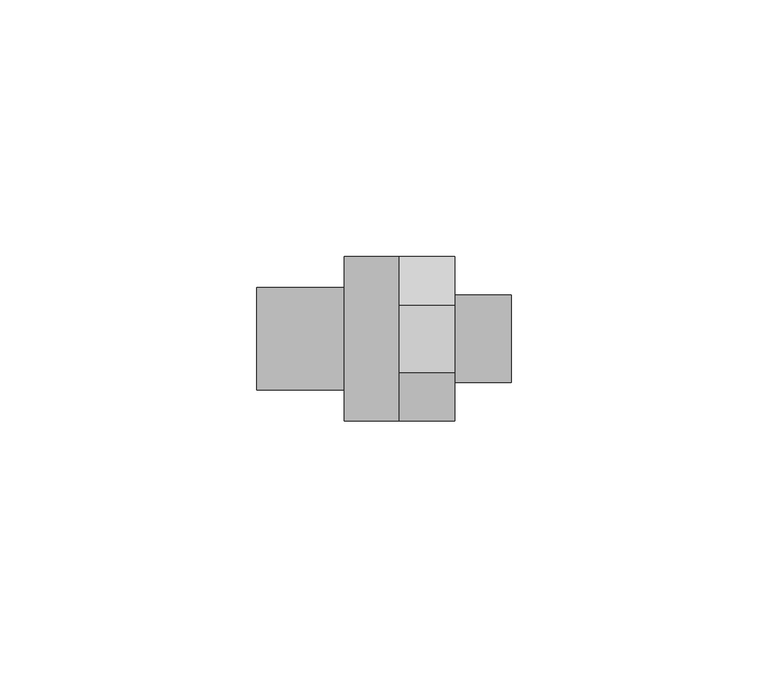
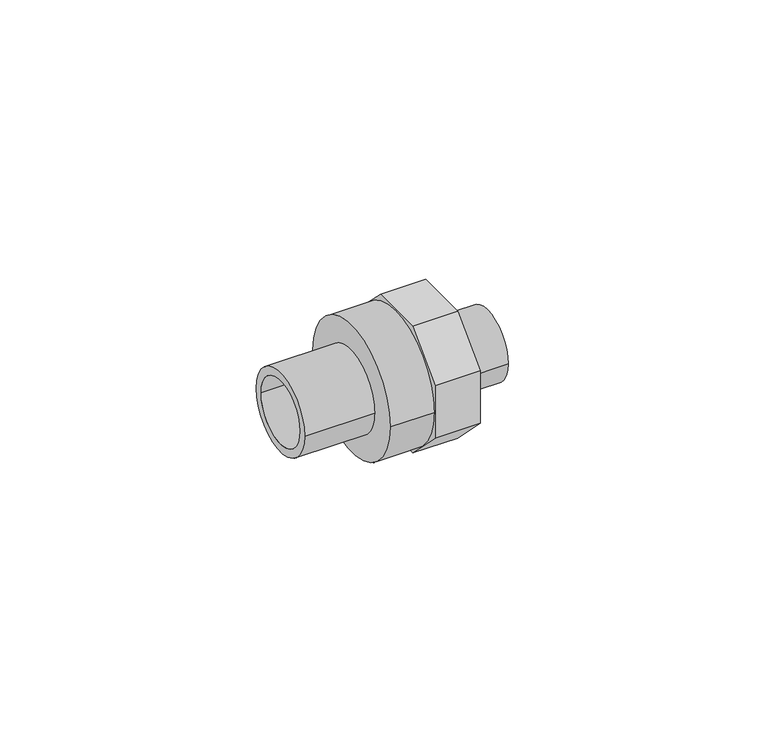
"""IFC4 building model written with IfcOpenShell, lengths in millimetres: pipe fitting geometry."""

from ifc_helpers import new_model, si_unit, point, frame, origin, origin_2d, place, context, project, spatial, polyline, circle_curve, trimmed, segment, composite_curve, outline, extrude, source, transform, mapped, element, save


def pipe_fitting_ed674d28(model_context):
    return source(origin(), model_context, "Body", "SweptSolid", [
        extrude(outline(composite_curve([segment(trimmed(circle_curve(origin_2d(), 8.5), [point((-8.5, 0.0))], [point((8.5, 0.0))], False, "CARTESIAN"), True, "CONTINUOUS"), segment(trimmed(circle_curve(origin_2d(), 8.5), [point((8.5, 0.0))], [point((-8.5, 0.0))], False, "CARTESIAN"), True, "CONTINUOUS")], self_intersect=False), holes=[composite_curve([segment(trimmed(circle_curve(origin_2d(), 6.0), [point((-6.0, 0.0))], [point((6.0, 0.0))], True, "CARTESIAN"), True, "CONTINUOUS"), segment(trimmed(circle_curve(origin_2d(), 6.0), [point((6.0, 0.0))], [point((-6.0, 0.0))], True, "CARTESIAN"), True, "CONTINUOUS")], self_intersect=False)]), frame((13.75, 0.0, 0.0), z_axis=(1.0, 0.0, 0.0), x_axis=(0.0, 1.0, 0.0)), (0.0, 0.0, 1.0), 11.0),
        extrude(outline(polyline([(6.627417, 16.0), (16.0, 6.627417), (16.0, -6.627417), (6.627417, -16.0), (-6.627417, -16.0), (-16.0, -6.627417), (-16.0, 6.627417), (-6.627417, 16.0), (6.627417, 16.0)]), holes=[composite_curve([segment(trimmed(circle_curve(origin_2d(), 6.0), [point((-6.0, 0.0))], [point((6.0, 0.0))], True, "CARTESIAN"), True, "CONTINUOUS"), segment(trimmed(circle_curve(origin_2d(), 6.0), [point((6.0, 0.0))], [point((-6.0, 0.0))], True, "CARTESIAN"), True, "CONTINUOUS")], self_intersect=False)]), frame((3.0, 0.0, 0.0), z_axis=(1.0, 0.0, 0.0), x_axis=(0.0, 1.0, 0.0)), (0.0, 0.0, 1.0), 10.75),
        extrude(outline(composite_curve([segment(trimmed(circle_curve(origin_2d(), 16.0), [point((-16.0, 0.0))], [point((16.0, 0.0))], False, "CARTESIAN"), True, "CONTINUOUS"), segment(trimmed(circle_curve(origin_2d(), 16.0), [point((16.0, 0.0))], [point((-16.0, 0.0))], False, "CARTESIAN"), True, "CONTINUOUS")], self_intersect=False), holes=[composite_curve([segment(trimmed(circle_curve(origin_2d(), 6.0), [point((-6.0, 0.0))], [point((6.0, 0.0))], True, "CARTESIAN"), True, "CONTINUOUS"), segment(trimmed(circle_curve(origin_2d(), 6.0), [point((6.0, 0.0))], [point((-6.0, 0.0))], True, "CARTESIAN"), True, "CONTINUOUS")], self_intersect=False)]), frame((-7.75, 0.0, 0.0), z_axis=(1.0, 0.0, 0.0), x_axis=(0.0, 1.0, 0.0)), (0.0, 0.0, 1.0), 10.75),
        extrude(outline(composite_curve([segment(trimmed(circle_curve(origin_2d(), 10.0), [point((-10.0, 0.0))], [point((10.0, 0.0))], False, "CARTESIAN"), True, "CONTINUOUS"), segment(trimmed(circle_curve(origin_2d(), 10.0), [point((10.0, 0.0))], [point((-10.0, 0.0))], False, "CARTESIAN"), True, "CONTINUOUS")], self_intersect=False), holes=[composite_curve([segment(trimmed(circle_curve(origin_2d(), 8.0), [point((-8.0, 0.0))], [point((8.0, 0.0))], True, "CARTESIAN"), True, "CONTINUOUS"), segment(trimmed(circle_curve(origin_2d(), 8.0), [point((8.0, 0.0))], [point((-8.0, 0.0))], True, "CARTESIAN"), True, "CONTINUOUS")], self_intersect=False)]), frame((-24.75, 0.0, 0.0), z_axis=(1.0, 0.0, 0.0), x_axis=(0.0, 1.0, 0.0)), (0.0, 0.0, 1.0), 17.0),
    ])


if __name__ == "__main__":
    model = new_model("IFC4")
    model_context = context("Model", 3, world=origin())
    ifc_project = project(units=[si_unit("LENGTHUNIT", "METRE", prefix="MILLI")], contexts=[model_context])
    site = spatial("IfcSite", under=ifc_project)
    building = spatial("IfcBuilding", under=site)
    placement = place(None, origin())
    pipe_fitting_shape = pipe_fitting_ed674d28(model_context)
    element("IfcPipeFitting", 1, ObjectType="PipeFitting_HTA_CPVC_AdaptorNipplesA : 16 mm x 3/8\"", at=placement, inside=building, context=model_context, shape_type="MappedRepresentation", body=[
        mapped(pipe_fitting_shape, transform((0.0, 0.0, 0.0), x_axis=(1.0, 0.0, 0.0), y_axis=(0.0, 1.0, 0.0), z_axis=(0.0, 0.0, 1.0))),
    ])
    save(model, "model.ifc")
